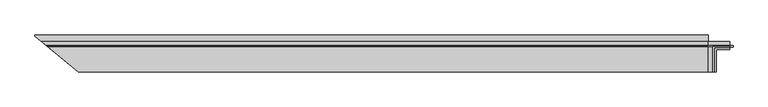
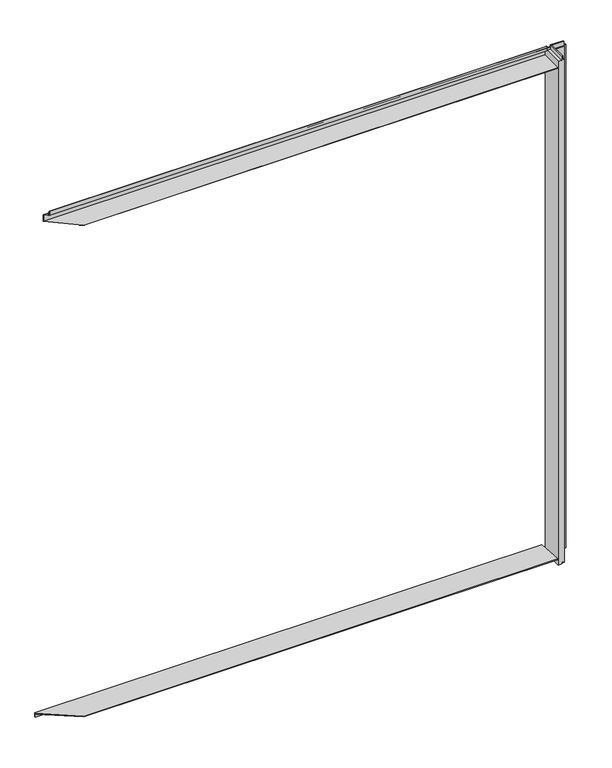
"""IFC4 building model written with IfcOpenShell, lengths in millimetres: plate geometry, Trimo_Qbiss Screen_Wall Opening Trims-HORIZONTAL : HR - B."""

import ifcopenshell
import ifcopenshell.guid

model = None  # the IFC model being written
_history = None  # IfcOwnerHistory: only IFC2X3 demands one
_inside = {}  # id of a spatial element -> (the spatial element, [elements in it])
_under = {}  # id of a project, library or spatial element -> (it, [spatial elements below it])
_declared = {}  # id of a project -> (the project, [libraries it declares])
_typed = {}  # id of a type object -> (the type object, [elements of that type])
_made_of = {}  # id of a material, layer set ... -> (it, [elements and type objects made of it])


def new_model(schema):
    """Start an empty IFC model of exactly this schema.

    Asked for "IFC4X3", IfcOpenShell would pick the latest addendum, in which some entities
    have other attributes; the version numbers below select the first issue.
    IFC2X3 requires an IfcOwnerHistory on every rooted entity: one is made here for all.
    """
    global model, _history
    if schema == "IFC4X3":
        model = ifcopenshell.file(schema_version=(4, 3, 0, 0))
    else:
        model = ifcopenshell.file(schema=schema)
    _inside.clear()
    _under.clear()
    _declared.clear()
    _typed.clear()
    _made_of.clear()
    _history = None
    if model.schema == "IFC2X3":
        org = make("IfcOrganization", Name="unknown")
        user = make(
            "IfcPersonAndOrganization",
            ThePerson=make("IfcPerson", FamilyName="unknown"),
            TheOrganization=org,
        )
        app = make(
            "IfcApplication",
            ApplicationDeveloper=org,
            Version="unknown",
            ApplicationFullName="unknown",
            ApplicationIdentifier="unknown",
        )
        _history = make(
            "IfcOwnerHistory",
            OwningUser=user,
            OwningApplication=app,
            ChangeAction="ADDED",
            CreationDate=0,
        )
    return model


def make(cls, **values):
    """One entity of the class cls with the attributes given. An attribute that is None is left unset."""
    return model.create_entity(
        cls, **{name: value for name, value in values.items() if value is not None}
    )


def rooted(cls, **values):
    """An entity with a GlobalId (a new one), such as an element, a storey or a relation."""
    return make(cls, GlobalId=ifcopenshell.guid.new(), OwnerHistory=_history, **values)


def si_unit(unit_type, name, prefix=None):
    """IfcSIUnit, for example si_unit("LENGTHUNIT", "METRE", prefix="MILLI")."""
    return make("IfcSIUnit", UnitType=unit_type, Prefix=prefix, Name=name)


def assignment(units):
    """IfcUnitAssignment: the units of a project."""
    return None if units is None else make("IfcUnitAssignment", Units=units)


def point(xyz):
    """IfcCartesianPoint."""
    return None if xyz is None else make("IfcCartesianPoint", Coordinates=xyz)


def direction(xyz):
    """IfcDirection."""
    return None if xyz is None else make("IfcDirection", DirectionRatios=xyz)


def frame(location, z_axis=None, x_axis=None):
    """IfcAxis2Placement3D, a coordinate frame: its origin and axes. An axis left out is left unset."""
    return make(
        "IfcAxis2Placement3D",
        Location=point(location),
        Axis=direction(z_axis),
        RefDirection=direction(x_axis),
    )


def origin():
    """The frame at (0, 0, 0) with its axes left unset."""
    return frame((0.0, 0.0, 0.0))


def origin_with_axes():
    """The frame at (0, 0, 0) with the z axis (0, 0, 1) and the x axis (1, 0, 0) written out."""
    return frame((0.0, 0.0, 0.0), z_axis=(0.0, 0.0, 1.0), x_axis=(1.0, 0.0, 0.0))


def place(relative_to, where):
    """IfcLocalPlacement: puts the frame where relative to a parent placement (None: the world)."""
    return make(
        "IfcLocalPlacement", PlacementRelTo=relative_to, RelativePlacement=where
    )


def context(
    kind, dimensions, precision=None, world=None, true_north=None, identifier=None
):
    """IfcGeometricRepresentationContext, for example the 3D "Model" context."""
    return make(
        "IfcGeometricRepresentationContext",
        ContextIdentifier=identifier,
        ContextType=kind,
        CoordinateSpaceDimension=dimensions,
        Precision=precision,
        WorldCoordinateSystem=world,
        TrueNorth=true_north,
    )


def project(units=None, contexts=None):
    """IfcProject with its units and contexts."""
    return rooted(
        "IfcProject",
        Name="project",
        RepresentationContexts=contexts,
        UnitsInContext=assignment(units),
    )


def spatial(cls, under=None, at=None, **own):
    """A site, building, storey or space (cls), placed at a placement, below another one or the project."""
    s = rooted(cls, ObjectPlacement=at, **own)
    if under is not None:
        _under.setdefault(under.id(), (under, []))[1].append(s)
    return s


def polyline(points):
    """IfcPolyline through the points."""
    return make("IfcPolyline", Points=[point(p) for p in points])


def outline(outer, holes=None, kind="AREA"):
    """IfcArbitraryClosedProfileDef: a profile drawn as a closed curve; with holes, ...WithVoids."""
    if holes is None:
        return make("IfcArbitraryClosedProfileDef", ProfileType=kind, OuterCurve=outer)
    return make(
        "IfcArbitraryProfileDefWithVoids",
        ProfileType=kind,
        OuterCurve=outer,
        InnerCurves=holes,
    )


def extrude(swept, where, along, depth):
    """IfcExtrudedAreaSolid: the profile swept, set in the frame where, extruded along a direction by depth."""
    return make(
        "IfcExtrudedAreaSolid",
        SweptArea=swept,
        Position=where,
        ExtrudedDirection=direction(along),
        Depth=depth,
    )


def faces_of(points, faces, orient=None, outer=None):
    """IfcFace entities. A face is a list of loops; a loop is a list of indices into points, from 0.

    orient and outer hold one flag for each loop. By default every Orientation is true, the
    first loop of a face is its IfcFaceOuterBound and the others are IfcFaceBound.
    """
    made = []
    for i, loops in enumerate(faces):
        bounds = []
        for j, loop in enumerate(loops):
            is_outer = j == 0 if outer is None else outer[i][j]
            bounds.append(
                make(
                    "IfcFaceOuterBound" if is_outer else "IfcFaceBound",
                    Bound=make("IfcPolyLoop", Polygon=[points[k] for k in loop]),
                    Orientation=True if orient is None else orient[i][j],
                )
            )
        made.append(make("IfcFace", Bounds=bounds))
    return made


def faceted_brep(points, faces, orient=None, outer=None, voids=None):
    """IfcFacetedBrep: a solid bounded by flat faces; with voids (closed shells), ...WithVoids."""
    shared = [point(p) for p in points]
    hull = make("IfcClosedShell", CfsFaces=faces_of(shared, faces, orient, outer))
    if voids is None:
        return make("IfcFacetedBrep", Outer=hull)
    return make(
        "IfcFacetedBrepWithVoids",
        Outer=hull,
        Voids=[
            make(cls, CfsFaces=faces_of(shared, fs, o, b)) for cls, fs, o, b in voids
        ],
    )


def shape(context_of_items, identifier, shape_type, items):
    """IfcShapeRepresentation: the items that make up one representation, for example the "Body"."""
    return make(
        "IfcShapeRepresentation",
        ContextOfItems=context_of_items,
        RepresentationIdentifier=identifier,
        RepresentationType=shape_type,
        Items=items,
    )


def source(mapping_origin, context_of_items, identifier, shape_type, items):
    """IfcRepresentationMap: a shape defined once, which mapped items show again and again."""
    return make(
        "IfcRepresentationMap",
        MappingOrigin=mapping_origin,
        MappedRepresentation=shape(context_of_items, identifier, shape_type, items),
    )


def transform(
    local_origin,
    x_axis=None,
    y_axis=None,
    z_axis=None,
    scale=None,
    scale2=None,
    scale3=None,
    uniform=True,
):
    """IfcCartesianTransformationOperator3D, or its non-uniform kind. x_axis, y_axis, z_axis: its Axis1, 2, 3."""
    if uniform:
        return make(
            "IfcCartesianTransformationOperator3D",
            Axis1=direction(x_axis),
            Axis2=direction(y_axis),
            LocalOrigin=point(local_origin),
            Scale=scale,
            Axis3=direction(z_axis),
        )
    return make(
        "IfcCartesianTransformationOperator3DnonUniform",
        Axis1=direction(x_axis),
        Axis2=direction(y_axis),
        LocalOrigin=point(local_origin),
        Scale=scale,
        Axis3=direction(z_axis),
        Scale2=scale2,
        Scale3=scale3,
    )


def mapped(mapping_source, mapping_target):
    """IfcMappedItem: shows the shape of a source again, moved by a transform."""
    return make(
        "IfcMappedItem", MappingSource=mapping_source, MappingTarget=mapping_target
    )


def made_of(thing, what):
    """Note that an element or type object is made of a material, layer set ...; save() writes the relation."""
    if what is not None:
        _made_of.setdefault(what.id(), (what, []))[1].append(thing)
    return thing


def element(
    cls,
    number,
    at=None,
    inside=None,
    cuts=None,
    type_object=None,
    material=None,
    context=None,
    identifier="Body",
    shape_type=None,
    held_by="IfcProductDefinitionShape",
    body=None,
    shapes=None,
    **own,
):
    """One element of the class cls, such as IfcWall. Its Tag is "e" and its number.

    at: its placement. inside: the storey or other place that contains it. cuts: it is an
    opening in that element (IfcRelVoidsElement). A single representation is given by context,
    identifier, shape_type and body (its items); several are given by shapes. held_by: the class
    of the entity that holds the representations. save() writes the other relations.
    """
    e = rooted(cls, Tag="e%d" % number, ObjectPlacement=at, **own)
    if body is not None:
        shapes = [shape(context, identifier, shape_type, body)]
    if shapes is not None:
        e.Representation = make(held_by, Representations=shapes)
    if inside is not None:
        _inside.setdefault(inside.id(), (inside, []))[1].append(e)
    if cuts is not None:
        rooted(
            "IfcRelVoidsElement", RelatingBuildingElement=cuts, RelatedOpeningElement=e
        )
    if type_object is not None:
        _typed.setdefault(type_object.id(), (type_object, []))[1].append(e)
    return made_of(e, material)


def aggregate(whole, parts):
    """IfcRelAggregates: a whole, such as a stair, and the parts it consists of."""
    return rooted("IfcRelAggregates", RelatingObject=whole, RelatedObjects=parts)


def save(model, path):
    """Write the relations noted so far, then the file.

    IfcRelAggregates (storeys below a building ...), IfcRelContainedInSpatialStructure (elements
    in a storey), IfcRelDefinesByType, IfcRelAssociatesMaterial and IfcRelDeclares: one each for
    every whole, place, type object, material and project.
    """
    for whole, parts in _under.values():
        aggregate(whole, parts)
    for where, things in _inside.values():
        rooted(
            "IfcRelContainedInSpatialStructure",
            RelatedElements=things,
            RelatingStructure=where,
        )
    for kind, things in _typed.values():
        rooted("IfcRelDefinesByType", RelatedObjects=things, RelatingType=kind)
    for what, things in _made_of.values():
        rooted("IfcRelAssociatesMaterial", RelatedObjects=things, RelatingMaterial=what)
    for by, libraries in _declared.values():
        rooted("IfcRelDeclares", RelatingContext=by, RelatedDefinitions=libraries)
    model.write(path)


def plate_828074e9(model_context):
    return source(origin(), model_context, "Body", "SolidModel", [
        faceted_brep([(1740.212234, -92.0, 4487.0), (1711.212234, -92.0, 4487.0), (1711.212234, -92.0, 0.0), (1739.212234, -92.0, 0.0), (1739.212234, -92.0, 15.5), (1749.212234, -92.0, 15.5), (1749.212234, -92.0, 7.0), (1761.212234, -92.0, 7.0), (1761.212234, -92.0, 4487.0), (1748.212234, -92.0, 4487.0), (1748.212234, -92.0, 4524.5), (1740.212234, -92.0, 4524.5), (1711.212234, 100.0, 0.0), (1711.212234, 100.0, 4487.0), (1846.212234, 100.0, 4487.0), (1846.212234, 100.0, 0.0), (1739.212234, 72.0, 15.5), (1739.212234, 72.0, 0.0), (1846.212234, 72.0, 0.0), (1846.212234, 72.0, 15.5), (1749.212234, 62.0, 7.0), (1749.212234, 62.0, 15.5), (1846.212234, 62.0, 15.5), (1846.212234, 62.0, 7.0), (1761.212234, 50.0, 4487.0), (1761.212234, 50.0, 7.0), (1846.212234, 50.0, 7.0), (1846.212234, 50.0, 4487.0), (1748.212234, 63.0, 4524.5), (1748.212234, 63.0, 4487.0), (1846.212234, 63.0, 4487.0), (1846.212234, 63.0, 4524.5), (1740.212234, 71.0, 4487.0), (1740.212234, 71.0, 4524.5), (1846.212234, 71.0, 4524.5), (1846.212234, 71.0, 4487.0)], [[[0, 1, 2, 3, 4, 5, 6, 7, 8, 9, 10, 11]], [[12, 13, 14, 15]], [[16, 17, 18, 19]], [[20, 21, 22, 23]], [[24, 25, 26, 27]], [[28, 29, 30, 31]], [[32, 33, 34, 35]], [[35, 34, 31, 30, 27, 26, 23, 22, 19, 18, 15, 14]], [[1, 0, 32, 35, 14, 13]], [[2, 1, 13, 12]], [[3, 2, 12, 15, 18, 17]], [[4, 3, 17, 16]], [[5, 4, 16, 19, 22, 21]], [[6, 5, 21, 20]], [[7, 6, 20, 23, 26, 25]], [[8, 7, 25, 24]], [[9, 8, 24, 27, 30, 29]], [[10, 9, 29, 28]], [[11, 10, 28, 31, 34, 33]], [[0, 11, 33, 32]]]),
        extrude(outline(polyline([(1849.212234, 76.5978162), (1868.212234, 76.5978162), (1868.212234, 67.8978162), (1849.212234, 67.8978162), (1849.212234, 76.5978162)])), origin_with_axes(), (0.0, 0.0, 1.0), 4487.0),
        faceted_brep([(1709.212234, 71.0, 4487.0), (1709.212234, 71.0, 4524.5), (1709.212234, 70.0, 4524.5), (1709.212234, 70.0, 4486.0), (1709.212234, 99.0, 4486.0), (1709.212234, 99.0, 4430.0), (1709.212234, -92.0, 4430.0), (1709.212234, -92.0, 4429.0), (1709.212234, 100.0, 4429.0), (1709.212234, 100.0, 4487.0), (-2486.6513798, 71.0, 4487.0), (-2486.6513798, 71.0, 4524.5), (-2485.4596262, 70.0, 4524.5), (-2485.4596262, 70.0, 4486.0), (-2520.0204804, 99.0, 4486.0), (-2520.0204804, 99.0, 4430.0), (-2292.3955442, -92.0, 4430.0), (-2292.3955442, -92.0, 4429.0), (-2521.212234, 100.0, 4429.0), (-2521.212234, 100.0, 4487.0)], [[[0, 1, 2, 3, 4, 5, 6, 7, 8, 9]], [[1, 0, 10, 11]], [[2, 1, 11, 12]], [[3, 2, 12, 13]], [[4, 3, 13, 14]], [[5, 4, 14, 15]], [[6, 5, 15, 16]], [[7, 6, 16, 17]], [[8, 7, 17, 18]], [[9, 8, 18, 19]], [[0, 9, 19, 10]], [[11, 10, 19, 18, 17, 16, 15, 14, 13, 12]]]),
        faceted_brep([(1709.212234, 138.0, 29.8042278), (1709.212234, 138.0, 0.0), (1709.212234, 145.0, 0.0), (1709.212234, 145.0, 36.234396), (1709.212234, -92.0, 56.3821274), (1709.212234, -92.0, 49.3568786), (-2566.212234, 145.0, 36.234396), (-2566.212234, 145.0, 0.0), (-2566.212234, 138.0, 0.0), (-2566.212234, 138.0, 29.8042278), (-2566.212234, 137.7594834, 29.8246745), (-2566.212234, 137.7594834, 36.8499233), (-2292.3955442, -92.0, 56.3821274), (-2292.3955442, -92.0, 49.3568786)], [[[0, 1, 2, 3, 4, 5]], [[6, 7, 8, 9, 10, 11]], [[1, 0, 9, 8]], [[2, 1, 8, 7]], [[3, 2, 7, 6]], [[4, 3, 6, 11, 12]], [[5, 4, 12, 13]], [[0, 5, 13, 10, 9]], [[11, 10, 13, 12]]]),
        extrude(outline(polyline([(1846.212234, 76.0), (1846.212234, 71.0), (-2486.6513798, 71.0), (-2492.6101478, 76.0), (1846.212234, 76.0)])), frame((0.0, 0.0, 4488.0), z_axis=(0.0, 0.0, 1.0), x_axis=(1.0, 0.0, 0.0)), (0.0, 0.0, 1.0), 21.0),
    ])


if __name__ == "__main__":
    model = new_model("IFC4")
    model_context = context("Model", 3, world=origin())
    ifc_project = project(units=[si_unit("LENGTHUNIT", "METRE", prefix="MILLI")], contexts=[model_context])
    site = spatial("IfcSite", under=ifc_project)
    building = spatial("IfcBuilding", under=site)
    placement = place(None, origin())
    plate_shape = plate_828074e9(model_context)
    element("IfcPlate", 1, ObjectType="Trimo_Qbiss Screen_Wall Opening Trims-HORIZONTAL : HR - B", at=placement, inside=building, context=model_context, shape_type="MappedRepresentation", body=[
        mapped(plate_shape, transform((0.0, 0.0, 0.0), x_axis=(1.0, 0.0, 0.0), y_axis=(0.0, 1.0, 0.0), z_axis=(0.0, 0.0, 1.0))),
    ])
    save(model, "model.ifc")
